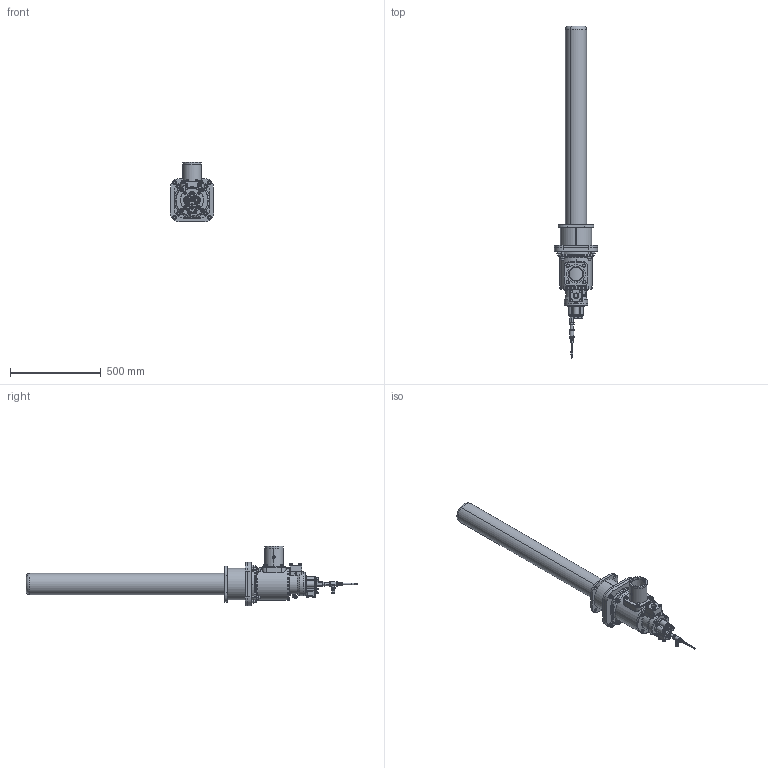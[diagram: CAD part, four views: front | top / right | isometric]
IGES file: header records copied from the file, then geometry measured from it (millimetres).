
Global section: file name: No Iges File Name specified; native system: AutoDesk Inventor R12.0; preprocessor: AutoDesk Inventor Iges Exporter R12.0; date: 20110916.114743; units: millimetre
Bounding box: 238 x 1829.78 x 327 mm (x, y, z)
Volume: 23856769 mm3; surface area: 1181908.7 mm2
Topology: 30 solids, 30 shells, 2549 faces, 6164 edges, 3799 vertices
Faces by surface type: plane 1043, cylinder 503, cone 412, bspline 359, revolution 190, torus 42
Full cylindrical faces by diameter (mm): 14.8 x12, 21.1 x8
